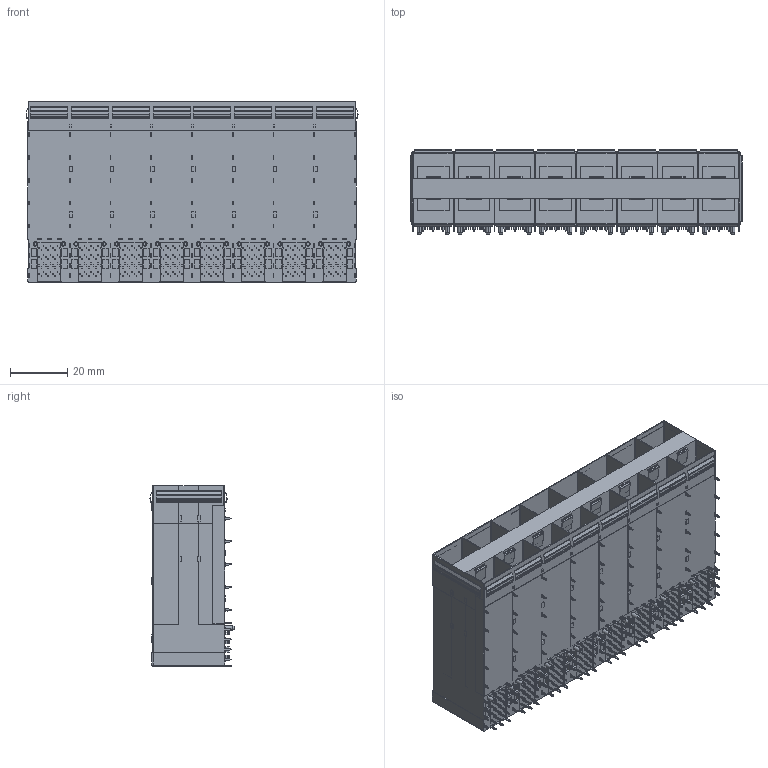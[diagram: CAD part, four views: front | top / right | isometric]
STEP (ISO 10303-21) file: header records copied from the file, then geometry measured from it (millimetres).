
FILE_DESCRIPTION (( 'STEP AP203' ), '1' );
FILE_NAME ('SFP28 2X8ÎÞµ¼¹âÖù3D.STEP', '2024-12-30T11:22:13', ( '' ), ( '' ), 'SwSTEP 2.0', 'SolidWorks 2018', '' );
FILE_SCHEMA (( 'CONFIG_CONTROL_DESIGN' ));
Products named in the file (1): SFP28 2X8拸絳嫖翐3D
Bounding box: 116.06 x 29.38 x 63.25 mm (x, y, z)
Volume: 92856.4 mm3; surface area: 65208.3 mm2
Topology: 1 solids, 1 shells, 5616 faces, 15611 edges, 10546 vertices
Faces by surface type: plane 3934, cylinder 1648, cone 32, sphere 2
Entity records: 179866 total; most frequent: CARTESIAN_POINT 31772, ORIENTED_EDGE 31218, DIRECTION 30175, EDGE_CURVE 15609, VECTOR 12277, LINE 12277, VERTEX_POINT 10546, AXIS2_PLACEMENT_3D 8949
